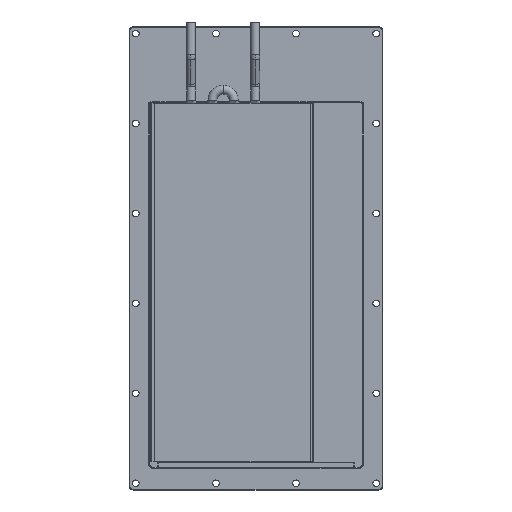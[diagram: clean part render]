
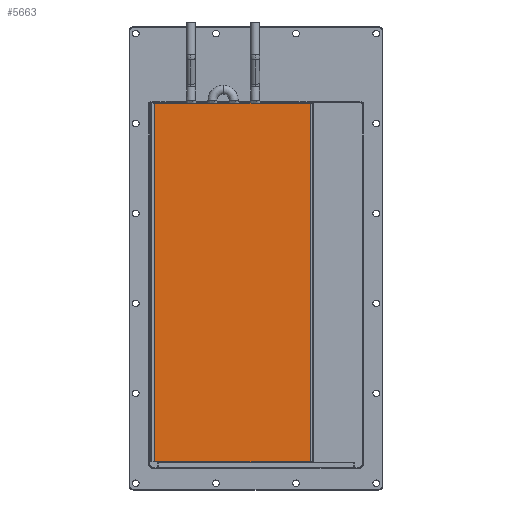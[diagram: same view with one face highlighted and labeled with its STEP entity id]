
A CAD part, front view. The second image highlights one B-rep face of the part: STEP entity #5663.
In plain terms, the highlighted planar face has unit normal (0, -1, 0).
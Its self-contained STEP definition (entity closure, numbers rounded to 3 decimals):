
#5663 = ADVANCED_FACE ( 'NONE', ( #50299 ), #108549, .T. ) ;
#9533 = EDGE_LOOP ( 'NONE', ( #56660, #108117, #47725, #10058 ) ) ;
#10058 = ORIENTED_EDGE ( 'NONE', *, *, #64996, .F. ) ;
#19132 = VECTOR ( 'NONE', #47198, 1000. ) ;
#19219 = CARTESIAN_POINT ( 'NONE',  ( 87.5, 1., 587.09 ) ) ;
#24269 = DIRECTION ( 'NONE',  ( 1., 0., 0. ) ) ;
#24298 = DIRECTION ( 'NONE',  ( 0., -1., 0. ) ) ;
#24805 = LINE ( 'NONE', #99661, #73941 ) ;
#25743 = EDGE_CURVE ( 'NONE', #68150, #59720, #24805, .T. ) ;
#32906 = CARTESIAN_POINT ( 'NONE',  ( -87.5, 1., 0. ) ) ;
#35231 = EDGE_CURVE ( 'NONE', #83314, #76237, #61643, .T. ) ;
#43242 = CARTESIAN_POINT ( 'NONE',  ( -87.5, 1., 587.09 ) ) ;
#47198 = DIRECTION ( 'NONE',  ( -1., 0., 0. ) ) ;
#47725 = ORIENTED_EDGE ( 'NONE', *, *, #35231, .F. ) ;
#50299 = FACE_OUTER_BOUND ( 'NONE', #9533, .T. ) ;
#51482 = CARTESIAN_POINT ( 'NONE',  ( -87.5, 1., 403. ) ) ;
#51787 = CARTESIAN_POINT ( 'NONE',  ( 87.5, 1., 403. ) ) ;
#52983 = LINE ( 'NONE', #19219, #97161 ) ;
#56660 = ORIENTED_EDGE ( 'NONE', *, *, #25743, .F. ) ;
#59655 = DIRECTION ( 'NONE',  ( 0., 0., -1. ) ) ;
#59720 = VERTEX_POINT ( 'NONE', #51787 ) ;
#61643 = LINE ( 'NONE', #72712, #19132 ) ;
#64996 = EDGE_CURVE ( 'NONE', #59720, #83314, #52983, .T. ) ;
#68150 = VERTEX_POINT ( 'NONE', #51482 ) ;
#72712 = CARTESIAN_POINT ( 'NONE',  ( -87.5, 1., 0. ) ) ;
#73941 = VECTOR ( 'NONE', #24269, 1000. ) ;
#76237 = VERTEX_POINT ( 'NONE', #32906 ) ;
#83314 = VERTEX_POINT ( 'NONE', #108106 ) ;
#85418 = LINE ( 'NONE', #43242, #102866 ) ;
#90830 = CARTESIAN_POINT ( 'NONE',  ( -87.5, 1., 587.09 ) ) ;
#95372 = DIRECTION ( 'NONE',  ( 0., 0., -1. ) ) ;
#97161 = VECTOR ( 'NONE', #59655, 1000. ) ;
#97653 = AXIS2_PLACEMENT_3D ( 'NONE', #90830, #24298, #99146 ) ;
#98318 = EDGE_CURVE ( 'NONE', #68150, #76237, #85418, .T. ) ;
#99146 = DIRECTION ( 'NONE',  ( 1., 0., 0. ) ) ;
#99661 = CARTESIAN_POINT ( 'NONE',  ( -87.5, 1., 403. ) ) ;
#102866 = VECTOR ( 'NONE', #95372, 1000. ) ;
#108106 = CARTESIAN_POINT ( 'NONE',  ( 87.5, 1., 0. ) ) ;
#108117 = ORIENTED_EDGE ( 'NONE', *, *, #98318, .T. ) ;
#108549 = PLANE ( 'NONE',  #97653 ) ;
